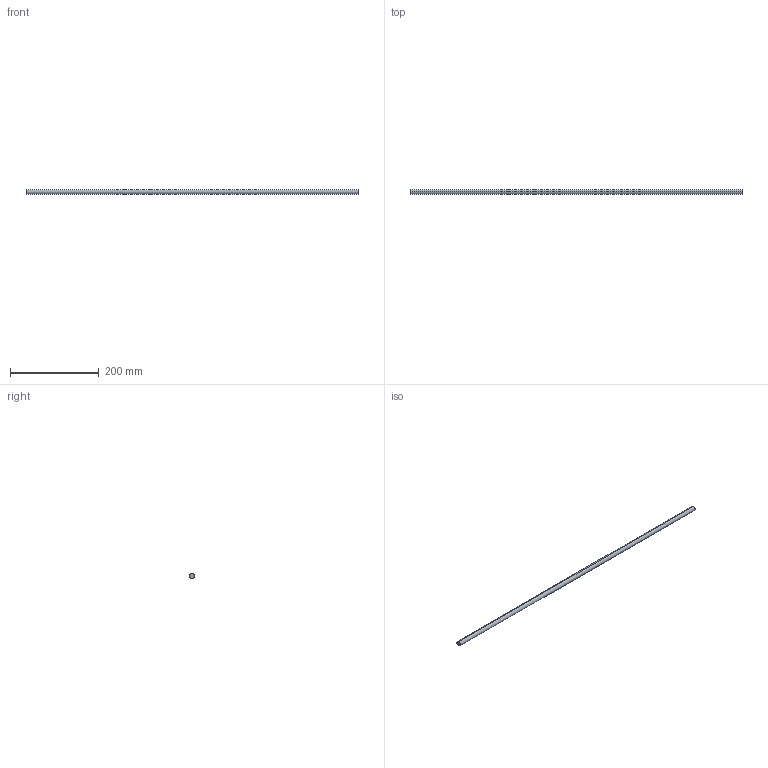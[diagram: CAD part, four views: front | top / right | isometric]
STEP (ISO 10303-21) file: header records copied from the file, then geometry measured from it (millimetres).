
FILE_DESCRIPTION (( 'STEP AP214' ), '1' );
FILE_NAME ('Querreling_2S-Rel_7102_KAB-850.step', '2010-09-22T15:05:58', ( 'grass' ), ( '' ), 'SwSTEP 2.0', 'SolidWorks 2010', '' );
FILE_SCHEMA (( 'AUTOMOTIVE_DESIGN' ));
Length unit declared in the file: millimetre
Products named in the file (1): Querreling_2S-Rel_7102_KAB-850
Bounding box: 749 x 11 x 11 mm (x, y, z)
Volume: 71179.9 mm3; surface area: 26073.6 mm2
Topology: 1 solids, 1 shells, 4 faces, 6 edges, 4 vertices
Faces by surface type: cylinder 2, plane 2
Entity records: 128 total; most frequent: DIRECTION 20, CARTESIAN_POINT 15, ORIENTED_EDGE 12, AXIS2_PLACEMENT_3D 9, EDGE_CURVE 6, VERTEX_POINT 4, ADVANCED_FACE 4, EDGE_LOOP 4
